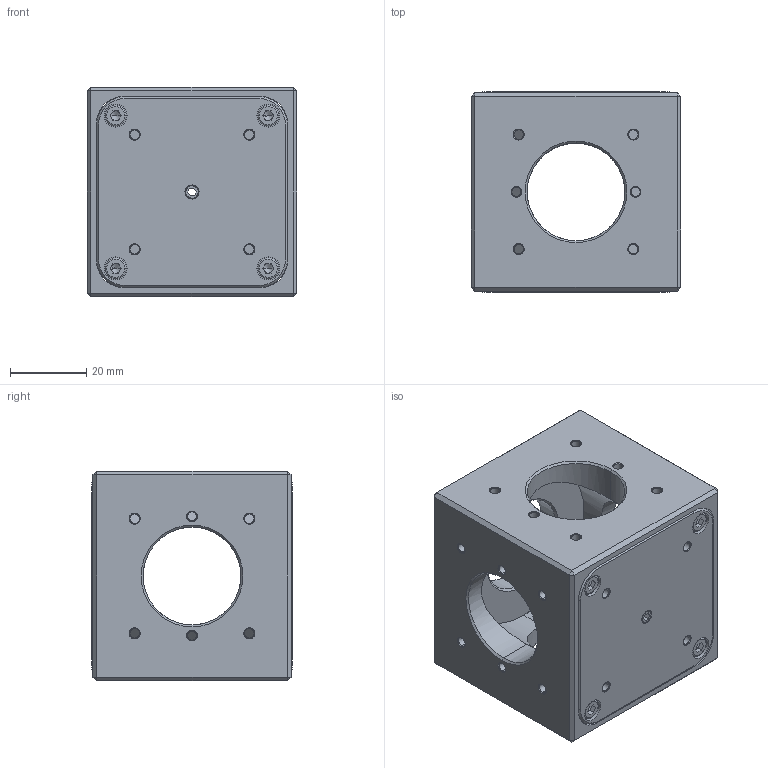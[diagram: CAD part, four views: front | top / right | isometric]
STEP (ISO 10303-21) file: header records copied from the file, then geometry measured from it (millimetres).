
FILE_DESCRIPTION (( 'STEP AP203' ), '1' );
FILE_NAME ('CSC1-M3-C.STEP', '2023-11-24T04:54:15', ( '' ), ( '' ), 'SwSTEP 2.0', 'SolidWorks 2021', '' );
FILE_SCHEMA (( 'CONFIG_CONTROL_DESIGN' ));
Length unit declared in the file: millimetre
Products named in the file (1): CSC1-M3-C
Bounding box: 55 x 52.4 x 55 mm (x, y, z)
Surface area: 29486.3 mm2 (no closed solid volume)
Topology: 0 solids, 13 shells, 365 faces, 1010 edges, 626 vertices
Faces by surface type: plane 133, cylinder 108, cone 108, torus 16
Entity records: 11929 total; most frequent: CARTESIAN_POINT 2404, DIRECTION 2156, ORIENTED_EDGE 1716, EDGE_CURVE 994, AXIS2_PLACEMENT_3D 808, VERTEX_POINT 626, VECTOR 540, LINE 540
